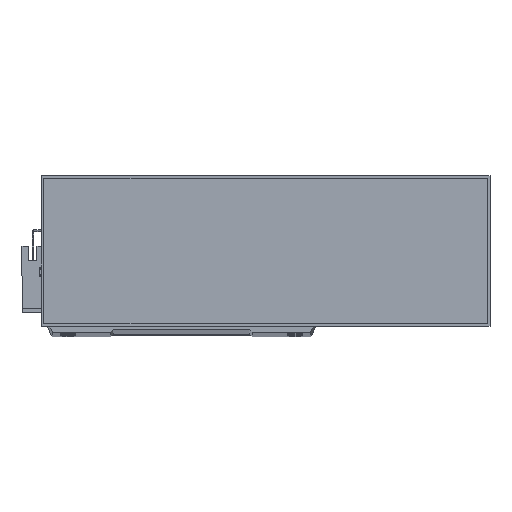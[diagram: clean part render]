
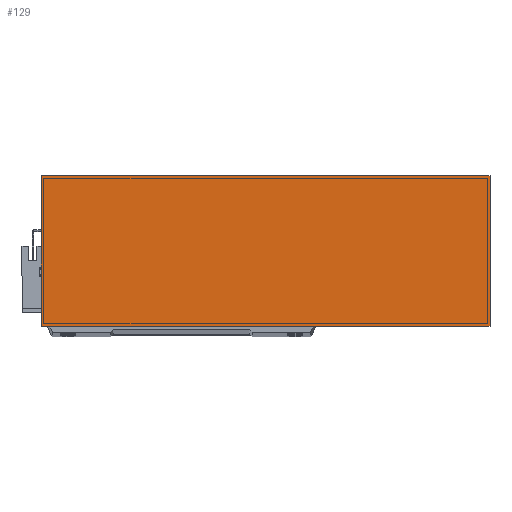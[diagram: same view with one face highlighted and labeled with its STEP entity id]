
A CAD part, top view. The second image highlights one B-rep face of the part: STEP entity #129.
In plain terms, the highlighted planar face has unit normal (0, 0, 1).
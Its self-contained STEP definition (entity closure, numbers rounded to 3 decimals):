
#129 = ADVANCED_FACE ( 'NONE', ( #4727 ), #28836, .F. ) ;
#224 = ORIENTED_EDGE ( 'NONE', *, *, #5675, .T. ) ;
#434 = CARTESIAN_POINT ( 'NONE',  ( 0., 93., 50. ) ) ;
#1636 = VERTEX_POINT ( 'NONE', #3151 ) ;
#1893 = VECTOR ( 'NONE', #30724, 1000. ) ;
#1924 = VECTOR ( 'NONE', #17944, 1000. ) ;
#3151 = CARTESIAN_POINT ( 'NONE',  ( 277., 0., 50. ) ) ;
#3414 = CARTESIAN_POINT ( 'NONE',  ( 277., 0., 50. ) ) ;
#3421 = ORIENTED_EDGE ( 'NONE', *, *, #26826, .T. ) ;
#4348 = VECTOR ( 'NONE', #16550, 1000. ) ;
#4727 = FACE_OUTER_BOUND ( 'NONE', #7337, .T. ) ;
#5184 = VECTOR ( 'NONE', #24516, 1000. ) ;
#5675 = EDGE_CURVE ( 'NONE', #13372, #14728, #6739, .T. ) ;
#6739 = LINE ( 'NONE', #434, #5184 ) ;
#7337 = EDGE_LOOP ( 'NONE', ( #3421, #11391, #12636, #224 ) ) ;
#8694 = VERTEX_POINT ( 'NONE', #18906 ) ;
#11391 = ORIENTED_EDGE ( 'NONE', *, *, #14715, .T. ) ;
#11705 = CARTESIAN_POINT ( 'NONE',  ( 0., 0., 50. ) ) ;
#12636 = ORIENTED_EDGE ( 'NONE', *, *, #28469, .T. ) ;
#13372 = VERTEX_POINT ( 'NONE', #25674 ) ;
#14715 = EDGE_CURVE ( 'NONE', #8694, #1636, #14831, .T. ) ;
#14728 = VERTEX_POINT ( 'NONE', #28425 ) ;
#14831 = LINE ( 'NONE', #28321, #1893 ) ;
#16550 = DIRECTION ( 'NONE',  ( 0., -1., 0. ) ) ;
#16918 = CARTESIAN_POINT ( 'NONE',  ( 0., 0., 50. ) ) ;
#17203 = LINE ( 'NONE', #11705, #4348 ) ;
#17881 = AXIS2_PLACEMENT_3D ( 'NONE', #16918, #21819, #23957 ) ;
#17944 = DIRECTION ( 'NONE',  ( 0., 1., 0. ) ) ;
#18906 = CARTESIAN_POINT ( 'NONE',  ( 0., 0., 50. ) ) ;
#21819 = DIRECTION ( 'NONE',  ( 0., 0., -1. ) ) ;
#23957 = DIRECTION ( 'NONE',  ( -1., 0., 0. ) ) ;
#24516 = DIRECTION ( 'NONE',  ( -1., 0., 0. ) ) ;
#25674 = CARTESIAN_POINT ( 'NONE',  ( 277., 93., 50. ) ) ;
#26826 = EDGE_CURVE ( 'NONE', #14728, #8694, #17203, .T. ) ;
#26961 = LINE ( 'NONE', #3414, #1924 ) ;
#28321 = CARTESIAN_POINT ( 'NONE',  ( 0., 0., 50. ) ) ;
#28425 = CARTESIAN_POINT ( 'NONE',  ( 0., 93., 50. ) ) ;
#28469 = EDGE_CURVE ( 'NONE', #1636, #13372, #26961, .T. ) ;
#28836 = PLANE ( 'NONE',  #17881 ) ;
#30724 = DIRECTION ( 'NONE',  ( 1., 0., 0. ) ) ;
